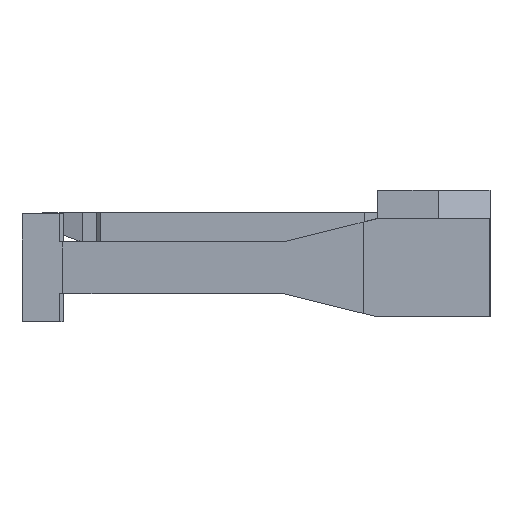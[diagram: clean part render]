
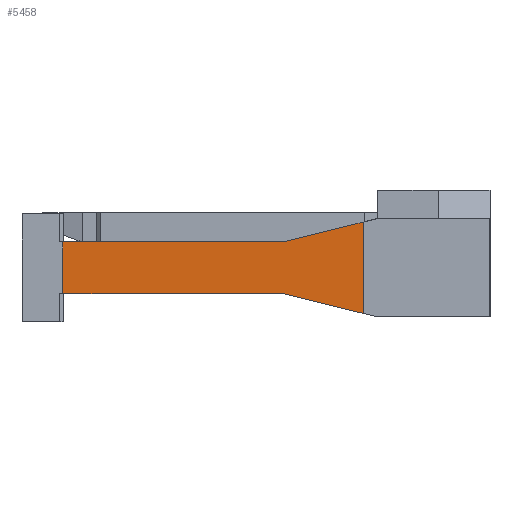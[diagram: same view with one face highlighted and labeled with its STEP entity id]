
A CAD part, left-side view. The second image highlights one B-rep face of the part: STEP entity #5458.
In plain terms, the highlighted planar face has unit normal (-1, 0.031, 0).
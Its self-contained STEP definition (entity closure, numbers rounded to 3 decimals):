
#258 = DIRECTION ( 'NONE',  ( -0.031, -1., 0. ) ) ;
#793 = CARTESIAN_POINT ( 'NONE',  ( -8.85, 2.708, -0.677 ) ) ;
#994 = EDGE_CURVE ( 'NONE', #12209, #11191, #10748, .T. ) ;
#1081 = VERTEX_POINT ( 'NONE', #3505 ) ;
#1172 = CARTESIAN_POINT ( 'NONE',  ( -8.65, 9.108, -0.6 ) ) ;
#1233 = VECTOR ( 'NONE', #15006, 1000. ) ;
#1765 = LINE ( 'NONE', #4259, #12376 ) ;
#1976 = EDGE_LOOP ( 'NONE', ( #4820, #12586, #9170, #6258, #15413, #4473 ) ) ;
#3161 = CARTESIAN_POINT ( 'NONE',  ( -8.85, 2.708, -2.623 ) ) ;
#3232 = VERTEX_POINT ( 'NONE', #12881 ) ;
#3505 = CARTESIAN_POINT ( 'NONE',  ( -8.65, 9.108, -2.2 ) ) ;
#3666 = FACE_OUTER_BOUND ( 'NONE', #1976, .T. ) ;
#4102 = LINE ( 'NONE', #4868, #5453 ) ;
#4246 = DIRECTION ( 'NONE',  ( 0., 0., 1. ) ) ;
#4259 = CARTESIAN_POINT ( 'NONE',  ( -8.85, 2.708, -0.677 ) ) ;
#4319 = LINE ( 'NONE', #793, #1233 ) ;
#4473 = ORIENTED_EDGE ( 'NONE', *, *, #14478, .F. ) ;
#4515 = CARTESIAN_POINT ( 'NONE',  ( -8.65, 9.108, -1.1 ) ) ;
#4544 = EDGE_CURVE ( 'NONE', #1081, #5695, #6582, .T. ) ;
#4820 = ORIENTED_EDGE ( 'NONE', *, *, #12496, .F. ) ;
#4868 = CARTESIAN_POINT ( 'NONE',  ( -8.85, 2.708, -2.623 ) ) ;
#4992 = DIRECTION ( 'NONE',  ( -1., 0.031, 0. ) ) ;
#5453 = VECTOR ( 'NONE', #15009, 1000. ) ;
#5458 = ADVANCED_FACE ( 'NONE', ( #3666 ), #16390, .T. ) ;
#5695 = VERTEX_POINT ( 'NONE', #9971 ) ;
#6258 = ORIENTED_EDGE ( 'NONE', *, *, #13793, .T. ) ;
#6506 = CARTESIAN_POINT ( 'NONE',  ( -8.797, 4.4, -1.1 ) ) ;
#6574 = CARTESIAN_POINT ( 'NONE',  ( -8.65, 9.108, -1.1 ) ) ;
#6582 = LINE ( 'NONE', #11658, #7142 ) ;
#7142 = VECTOR ( 'NONE', #258, 1000. ) ;
#8001 = DIRECTION ( 'NONE',  ( 0., 0., -1. ) ) ;
#8987 = LINE ( 'NONE', #6574, #12390 ) ;
#9170 = ORIENTED_EDGE ( 'NONE', *, *, #994, .F. ) ;
#9295 = VECTOR ( 'NONE', #13317, 1000. ) ;
#9971 = CARTESIAN_POINT ( 'NONE',  ( -8.797, 4.4, -2.2 ) ) ;
#10379 = VERTEX_POINT ( 'NONE', #3161 ) ;
#10748 = LINE ( 'NONE', #11841, #9295 ) ;
#10876 = AXIS2_PLACEMENT_3D ( 'NONE', #1172, #4992, #4246 ) ;
#11191 = VERTEX_POINT ( 'NONE', #6506 ) ;
#11658 = CARTESIAN_POINT ( 'NONE',  ( -8.65, 9.108, -2.2 ) ) ;
#11841 = CARTESIAN_POINT ( 'NONE',  ( -8.65, 9.108, -1.1 ) ) ;
#12209 = VERTEX_POINT ( 'NONE', #4515 ) ;
#12376 = VECTOR ( 'NONE', #8001, 1000. ) ;
#12390 = VECTOR ( 'NONE', #15304, 1000. ) ;
#12496 = EDGE_CURVE ( 'NONE', #3232, #10379, #1765, .T. ) ;
#12586 = ORIENTED_EDGE ( 'NONE', *, *, #12878, .T. ) ;
#12878 = EDGE_CURVE ( 'NONE', #3232, #11191, #4319, .T. ) ;
#12881 = CARTESIAN_POINT ( 'NONE',  ( -8.85, 2.708, -0.677 ) ) ;
#13317 = DIRECTION ( 'NONE',  ( -0.031, -1., 0. ) ) ;
#13793 = EDGE_CURVE ( 'NONE', #12209, #1081, #8987, .T. ) ;
#14478 = EDGE_CURVE ( 'NONE', #10379, #5695, #4102, .T. ) ;
#15006 = DIRECTION ( 'NONE',  ( 0.03, 0.97, -0.242 ) ) ;
#15009 = DIRECTION ( 'NONE',  ( 0.03, 0.97, 0.242 ) ) ;
#15304 = DIRECTION ( 'NONE',  ( 0., 0., -1. ) ) ;
#15413 = ORIENTED_EDGE ( 'NONE', *, *, #4544, .T. ) ;
#16390 = PLANE ( 'NONE',  #10876 ) ;
